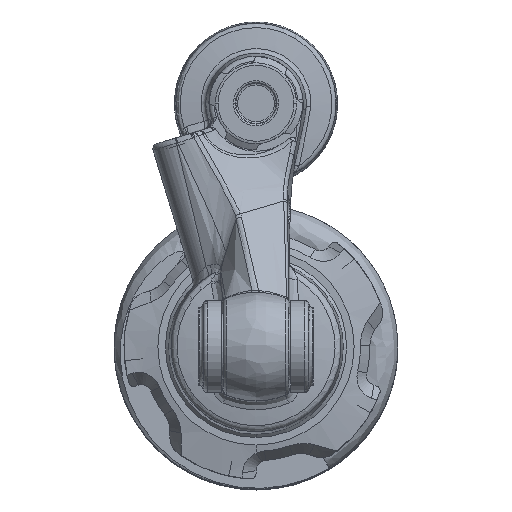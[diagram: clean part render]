
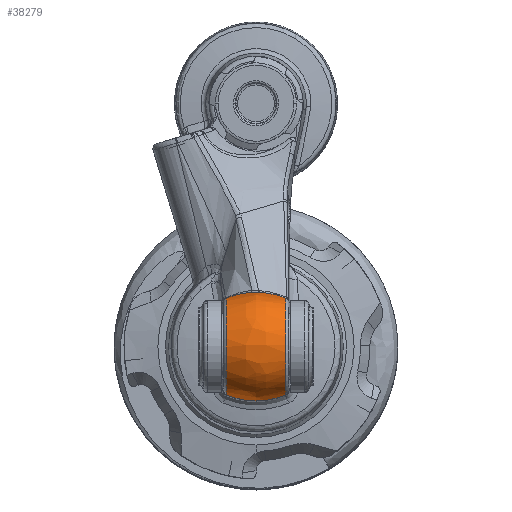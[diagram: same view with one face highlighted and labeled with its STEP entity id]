
A CAD part, top view. The second image highlights one B-rep face of the part: STEP entity #38279.
In plain terms, the highlighted free-form (B-spline) face has degree [3, 3] with [7, 4] control points.
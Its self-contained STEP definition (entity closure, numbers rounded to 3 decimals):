
#7316=CARTESIAN_POINT('',(0.774,10.468,
-0.001));
#7317=CARTESIAN_POINT('',(0.583,10.481,
0.066));
#7318=CARTESIAN_POINT('',(0.201,10.496,
0.154));
#7319=CARTESIAN_POINT('',(-0.391,10.493,
0.159));
#7320=CARTESIAN_POINT('',(-0.785,10.472,
0.069));
#7321=CARTESIAN_POINT('',(-0.982,10.455,
0.002));
#7328=CARTESIAN_POINT('',(0.,-4.495,
0.729));
#7329=DIRECTION('',(0.,-0.049,-0.999));
#7330=DIRECTION('',(-0.382,0.923,-0.045));
#7331=AXIS2_PLACEMENT_3D('',#7328,#7329,#7330);
#7333=CARTESIAN_POINT('',(0.,-4.495,0.729));
#7334=DIRECTION('',(0.,-0.049,-0.999));
#7335=DIRECTION('',(0.051,0.998,-0.049));
#7336=AXIS2_PLACEMENT_3D('',#7333,#7334,#7335);
#7338=CARTESIAN_POINT('',(5.732,0.,
0.51));
#7339=DIRECTION('',(1.,0.,0.));
#7340=DIRECTION('',(0.,0.999,-0.049));
#7341=AXIS2_PLACEMENT_3D('',#7338,#7339,#7340);
#7343=CARTESIAN_POINT('',(5.732,0.,
0.51));
#7344=DIRECTION('',(1.,0.,0.));
#7345=DIRECTION('',(0.,1.,0.));
#7346=AXIS2_PLACEMENT_3D('',#7343,#7344,#7345);
#7348=CARTESIAN_POINT('',(5.732,0.,
0.51));
#7349=DIRECTION('',(1.,0.,0.));
#7350=DIRECTION('',(0.,-0.997,0.081));
#7351=AXIS2_PLACEMENT_3D('',#7348,#7349,#7350);
#7353=CARTESIAN_POINT('',(0.,4.5,
0.51));
#7354=DIRECTION('',(0.,0.,-1.));
#7355=DIRECTION('',(0.382,-0.924,0.));
#7356=AXIS2_PLACEMENT_3D('',#7353,#7354,#7355);
#7358=CARTESIAN_POINT('',(0.,4.5,
0.51));
#7359=DIRECTION('',(0.,0.,-1.));
#7360=DIRECTION('',(0.,-1.,0.));
#7361=AXIS2_PLACEMENT_3D('',#7358,#7359,#7360);
#7363=CARTESIAN_POINT('',(-5.732,0.,0.51));
#7364=DIRECTION('',(-1.,0.,0.));
#7365=DIRECTION('',(0.,-1.,0.));
#7366=AXIS2_PLACEMENT_3D('',#7363,#7364,#7365);
#7368=CARTESIAN_POINT('',(-5.732,0.,0.51));
#7369=DIRECTION('',(-1.,0.,0.));
#7370=DIRECTION('',(0.,1.,0.023));
#7371=AXIS2_PLACEMENT_3D('',#7368,#7369,#7370);
#7373=CARTESIAN_POINT('',(-5.732,0.,0.51));
#7374=DIRECTION('',(-1.,0.,0.));
#7375=DIRECTION('',(0.,1.,0.));
#7376=AXIS2_PLACEMENT_3D('',#7373,#7374,#7375);
#7378=CARTESIAN_POINT('',(-5.732,9.351,
0.055));
#7395=CARTESIAN_POINT('',(-0.982,10.455,
0.002));
#24435=CARTESIAN_POINT('',(5.732,9.351,
0.055));
#24436=VERTEX_POINT('',#24435);
#24437=CARTESIAN_POINT('',(5.732,-9.362,0.51));
#24438=VERTEX_POINT('',#24437);
#24439=CARTESIAN_POINT('',(5.732,9.362,
0.51));
#24440=CARTESIAN_POINT('',(5.732,-9.331,
1.271));
#24441=VERTEX_POINT('',#24439);
#24442=VERTEX_POINT('',#24440);
#24443=CARTESIAN_POINT('',(-5.732,-9.362,
0.51));
#24444=VERTEX_POINT('',#24443);
#24445=CARTESIAN_POINT('',(0.,-10.5,0.51));
#24446=VERTEX_POINT('',#24445);
#24463=VERTEX_POINT('',#7378);
#24464=VERTEX_POINT('',#7395);
#24466=VERTEX_POINT('',#7316);
#24467=CARTESIAN_POINT('',(-5.732,9.359,
0.722));
#24468=CARTESIAN_POINT('',(-5.732,9.362,
0.51));
#24469=VERTEX_POINT('',#24467);
#24470=VERTEX_POINT('',#24468);
#38231=CARTESIAN_POINT('',(6.009,-9.225,
-0.079));
#38232=CARTESIAN_POINT('',(2.121,-10.921,
-0.188));
#38233=CARTESIAN_POINT('',(-2.121,-10.921,
-0.188));
#38234=CARTESIAN_POINT('',(-6.009,-9.225,
-0.079));
#38235=CARTESIAN_POINT('',(6.009,-9.595,
5.711));
#38236=CARTESIAN_POINT('',(2.121,-11.359,
6.667));
#38237=CARTESIAN_POINT('',(-2.121,-11.359,
6.667));
#38238=CARTESIAN_POINT('',(-6.009,-9.595,
5.711));
#38239=CARTESIAN_POINT('',(6.009,-5.574,
9.893));
#38240=CARTESIAN_POINT('',(2.121,-6.599,
11.618));
#38241=CARTESIAN_POINT('',(-2.121,-6.599,
11.618));
#38242=CARTESIAN_POINT('',(-6.009,-5.574,
9.893));
#38243=CARTESIAN_POINT('',(6.009,0.226,
9.751));
#38244=CARTESIAN_POINT('',(2.121,0.268,
11.45));
#38245=CARTESIAN_POINT('',(-2.121,0.268,
11.45));
#38246=CARTESIAN_POINT('',(-6.009,0.226,
9.751));
#38247=CARTESIAN_POINT('',(6.009,6.026,9.609));
#38248=CARTESIAN_POINT('',(2.121,7.134,11.282));
#38249=CARTESIAN_POINT('',(-2.121,7.134,
11.282));
#38250=CARTESIAN_POINT('',(-6.009,6.026,
9.609));
#38251=CARTESIAN_POINT('',(6.009,9.838,5.235));
#38252=CARTESIAN_POINT('',(2.121,11.646,6.104));
#38253=CARTESIAN_POINT('',(-2.121,11.646,
6.104));
#38254=CARTESIAN_POINT('',(-6.009,9.838,
5.235));
#38255=CARTESIAN_POINT('',(6.009,9.185,
-0.53));
#38256=CARTESIAN_POINT('',(2.121,10.874,
-0.721));
#38257=CARTESIAN_POINT('',(-2.121,10.874,
-0.721));
#38258=CARTESIAN_POINT('',(-6.009,9.185,
-0.53));
#38259=(BOUNDED_SURFACE()B_SPLINE_SURFACE(3,3,((#38231,#38232,#38233,#38234),(
#38235,#38236,#38237,#38238),(#38239,#38240,#38241,#38242),(#38243,#38244,
#38245,#38246),(#38247,#38248,#38249,#38250),(#38251,#38252,#38253,#38254),(
#38255,#38256,#38257,#38258)),.UNSPECIFIED.,.F.,.F.,.F.)B_SPLINE_SURFACE_WITH_KNOTS((4,3,4),(4,4),(0.,1.,2.),(0.,1.),.UNSPECIFIED.)GEOMETRIC_REPRESENTATION_ITEM()RATIONAL_B_SPLINE_SURFACE(((1.246,1.176,
1.176,1.246),(0.976,0.922,
0.922,0.976),(0.976,0.922,
0.922,0.976),(1.246,1.176,
1.176,1.246),(0.976,0.922,
0.922,0.976),(0.976,0.922,
0.922,0.976),(1.246,1.176,
1.176,1.246)))REPRESENTATION_ITEM('')SURFACE());
#38261=ORIENTED_EDGE('15761',*,*,#38260,.T.);
#38262=ORIENTED_EDGE('15765',*,*,#38222,.F.);
#38263=ORIENTED_EDGE('15767',*,*,#31775,.T.);
#38264=ORIENTED_EDGE('15735',*,*,#31808,.T.);
#38265=ORIENTED_EDGE('15733',*,*,#31806,.T.);
#38266=ORIENTED_EDGE('15734',*,*,#31804,.T.);
#38268=ORIENTED_EDGE('15739',*,*,#38267,.T.);
#38270=ORIENTED_EDGE('15738',*,*,#38269,.T.);
#38272=ORIENTED_EDGE('15769',*,*,#38271,.T.);
#38274=ORIENTED_EDGE('15768',*,*,#38273,.T.);
#38276=ORIENTED_EDGE('15770',*,*,#38275,.T.);
#38277=EDGE_LOOP('17829',(#38261,#38262,#38263,#38264,#38265,#38266,#38268,
#38270,#38272,#38274,#38276));
#38278=FACE_OUTER_BOUND('17829',#38277,.F.);
#38279=ADVANCED_FACE('17829',(#38278),#38259,.T.);
#7322=B_SPLINE_CURVE_WITH_KNOTS('15765',3,(#7316,#7317,#7318,#7319,#7320,#7321),
.UNSPECIFIED.,.F.,.F.,(4,1,1,4),(0.,0.333,0.667,1.),
.UNSPECIFIED.);
#7332=CIRCLE('15761',#7331,15.);
#7337=CIRCLE('15767',#7336,15.);
#7342=CIRCLE('15735',#7341,9.362);
#7347=CIRCLE('15733',#7346,9.362);
#7352=CIRCLE('15734',#7351,9.362);
#7357=CIRCLE('15739',#7356,15.);
#7362=CIRCLE('15738',#7361,15.);
#7367=CIRCLE('15769',#7366,9.362);
#7372=CIRCLE('15768',#7371,9.362);
#7377=CIRCLE('15770',#7376,9.362);
#31775=EDGE_CURVE('15767',#24466,#24436,#7337,.T.);
#31804=EDGE_CURVE('15734',#24442,#24438,#7352,.T.);
#31806=EDGE_CURVE('15733',#24441,#24442,#7347,.T.);
#31808=EDGE_CURVE('15735',#24436,#24441,#7342,.T.);
#38222=EDGE_CURVE('15765',#24466,#24464,#7322,.T.);
#38260=EDGE_CURVE('15761',#24463,#24464,#7332,.T.);
#38267=EDGE_CURVE('15739',#24438,#24446,#7357,.T.);
#38269=EDGE_CURVE('15738',#24446,#24444,#7362,.T.);
#38271=EDGE_CURVE('15769',#24444,#24469,#7367,.T.);
#38273=EDGE_CURVE('15768',#24469,#24470,#7372,.T.);
#38275=EDGE_CURVE('15770',#24470,#24463,#7377,.T.);
